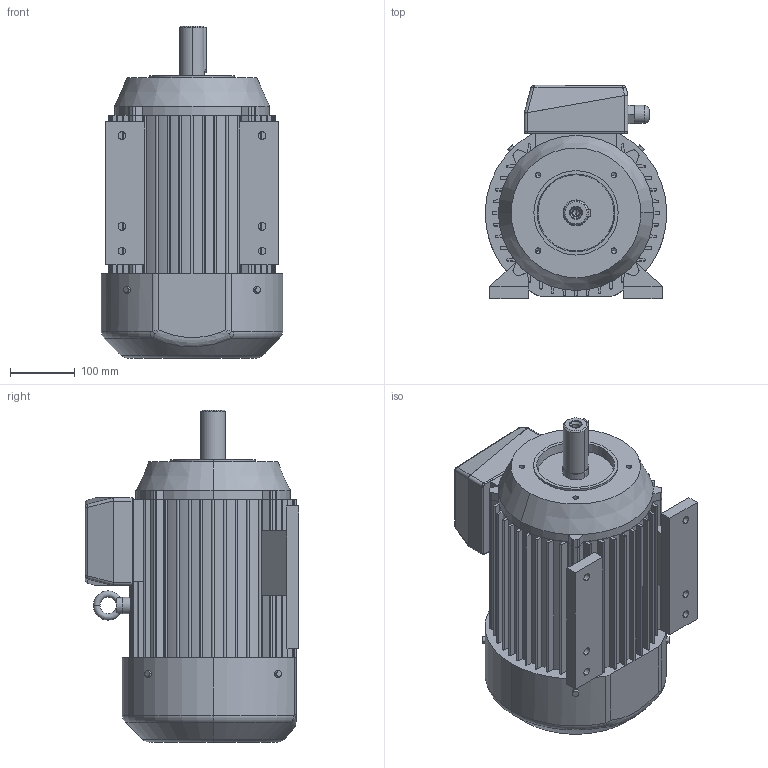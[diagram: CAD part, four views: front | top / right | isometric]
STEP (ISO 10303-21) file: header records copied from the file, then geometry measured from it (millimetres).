
FILE_DESCRIPTION (( 'STEP AP203' ), '1' );
FILE_NAME ('3SIEL132M-B14-C2.STEP', '2014-10-01T06:16:07', ( '' ), ( '' ), 'SwSTEP 2.0', 'SolidWorks 2003064', '' );
FILE_SCHEMA (( 'CONFIG_CONTROL_DESIGN' ));
Length unit declared in the file: millimetre
Products named in the file (1): 3SIEL132M-B14-C2
Bounding box: 280 x 329 x 512 mm (x, y, z)
Volume: 23764124.3 mm3; surface area: 992788.1 mm2
Topology: 16 solids, 16 shells, 431 faces, 1115 edges, 708 vertices
Faces by surface type: cylinder 192, plane 190, cone 24, torus 16, bspline 5, sphere 4
Entity records: 16861 total; most frequent: CARTESIAN_POINT 6088, DIRECTION 2324, ORIENTED_EDGE 2198, EDGE_CURVE 1099, AXIS2_PLACEMENT_3D 843, VERTEX_POINT 708, LINE 638, VECTOR 638
